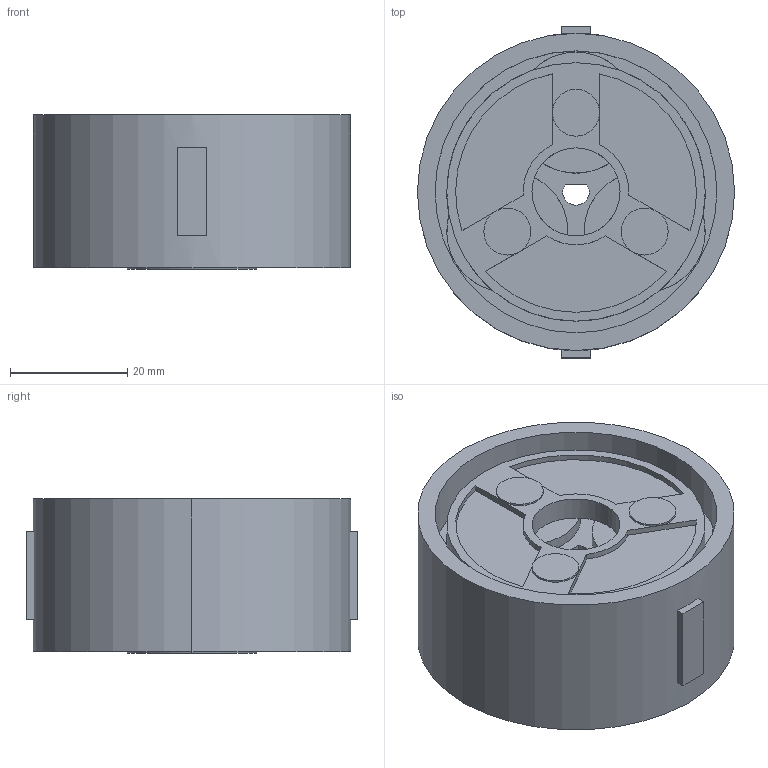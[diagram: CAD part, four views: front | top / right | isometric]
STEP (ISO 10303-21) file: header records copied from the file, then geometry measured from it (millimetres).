
FILE_DESCRIPTION (( 'STEP AP203' ), '1' );
FILE_NAME ('LGU54-6PAD.step', '2021-07-23T02:24:40', ( '' ), ( '' ), 'SwSTEP 2.0', 'SolidWorks 2021', '' );
FILE_SCHEMA (( 'CONFIG_CONTROL_DESIGN' ));
Length unit declared in the file: millimetre
Products named in the file (1): LGU54-6PAD
Bounding box: 54 x 56.5 x 26.25 mm (x, y, z)
Volume: 44117.4 mm3; surface area: 17864.3 mm2
Topology: 1 solids, 1 shells, 269 faces, 750 edges, 492 vertices
Faces by surface type: cylinder 211, plane 56, cone 2
Entity records: 8983 total; most frequent: DIRECTION 1744, CARTESIAN_POINT 1530, ORIENTED_EDGE 1500, EDGE_CURVE 750, AXIS2_PLACEMENT_3D 730, VERTEX_POINT 492, CIRCLE 460, EDGE_LOOP 292
